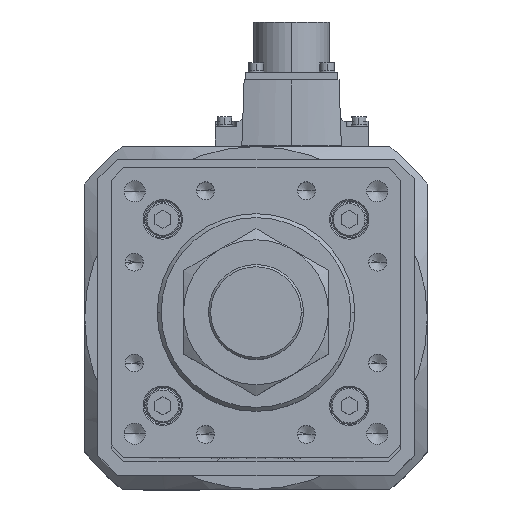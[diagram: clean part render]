
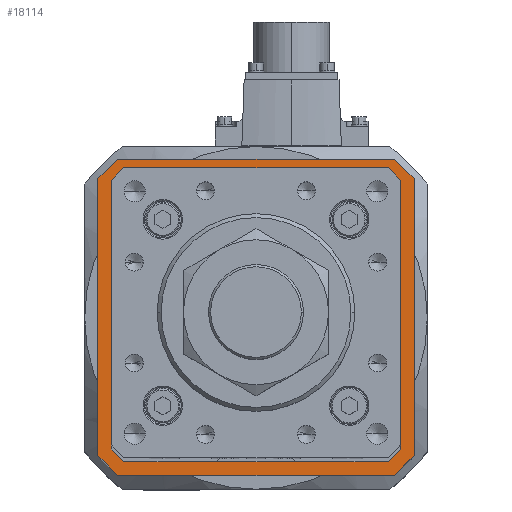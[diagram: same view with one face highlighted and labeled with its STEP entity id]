
A CAD part, top view. The second image highlights one B-rep face of the part: STEP entity #18114.
In plain terms, the highlighted planar face has unit normal (0, 0, 1).
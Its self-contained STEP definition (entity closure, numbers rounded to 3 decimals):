
#411 = VERTEX_POINT ( 'NONE', #8215 ) ;
#1445 = CARTESIAN_POINT ( 'NONE',  ( -53.646, -49.446, -119. ) ) ;
#1576 = DIRECTION ( 'NONE',  ( -0.707, 0.707, 0. ) ) ;
#2194 = CARTESIAN_POINT ( 'NONE',  ( -53.5, -49.593, -119. ) ) ;
#2470 = DIRECTION ( 'NONE',  ( 0., -1., 0. ) ) ;
#2675 = VECTOR ( 'NONE', #21064, 1000. ) ;
#3333 = ORIENTED_EDGE ( 'NONE', *, *, #23525, .F. ) ;
#3993 = ORIENTED_EDGE ( 'NONE', *, *, #28318, .T. ) ;
#4207 = ORIENTED_EDGE ( 'NONE', *, *, #32056, .T. ) ;
#4669 = VERTEX_POINT ( 'NONE', #32687 ) ;
#4819 = DIRECTION ( 'NONE',  ( 0., -1., 0. ) ) ;
#5154 = EDGE_CURVE ( 'NONE', #27202, #29627, #37141, .T. ) ;
#5333 = ORIENTED_EDGE ( 'NONE', *, *, #22204, .F. ) ;
#5356 = CARTESIAN_POINT ( 'NONE',  ( 49.593, -53.5, -119. ) ) ;
#5860 = CARTESIAN_POINT ( 'NONE',  ( -52.5, -60., -119. ) ) ;
#5901 = EDGE_CURVE ( 'NONE', #18471, #4669, #37491, .T. ) ;
#6014 = EDGE_CURVE ( 'NONE', #29627, #18471, #21142, .T. ) ;
#6247 = EDGE_CURVE ( 'NONE', #34869, #22856, #31531, .T. ) ;
#6373 = CARTESIAN_POINT ( 'NONE',  ( -52.5, 60., -119. ) ) ;
#6448 = CARTESIAN_POINT ( 'NONE',  ( 49.446, -53.646, -119. ) ) ;
#6647 = EDGE_LOOP ( 'NONE', ( #5333, #18380, #12939, #7297, #6736, #6955, #3333, #19049 ) ) ;
#6662 = VECTOR ( 'NONE', #28978, 1000. ) ;
#6736 = ORIENTED_EDGE ( 'NONE', *, *, #19068, .F. ) ;
#6928 = DIRECTION ( 'NONE',  ( 0.707, -0.707, 0. ) ) ;
#6955 = ORIENTED_EDGE ( 'NONE', *, *, #32998, .F. ) ;
#7160 = ORIENTED_EDGE ( 'NONE', *, *, #6014, .T. ) ;
#7297 = ORIENTED_EDGE ( 'NONE', *, *, #31286, .F. ) ;
#7788 = LINE ( 'NONE', #26077, #32752 ) ;
#7793 = VERTEX_POINT ( 'NONE', #37393 ) ;
#8215 = CARTESIAN_POINT ( 'NONE',  ( -60., 52.5, -119. ) ) ;
#8290 = EDGE_CURVE ( 'NONE', #411, #20085, #21397, .T. ) ;
#8300 = ORIENTED_EDGE ( 'NONE', *, *, #5901, .T. ) ;
#9520 = DIRECTION ( 'NONE',  ( -1., 0., 0. ) ) ;
#9641 = CARTESIAN_POINT ( 'NONE',  ( 60., 52.5, -119. ) ) ;
#10135 = VERTEX_POINT ( 'NONE', #27299 ) ;
#10841 = CARTESIAN_POINT ( 'NONE',  ( -60., 52.5, -119. ) ) ;
#11097 = VECTOR ( 'NONE', #29927, 1000. ) ;
#12756 = LINE ( 'NONE', #28188, #15908 ) ;
#12939 = ORIENTED_EDGE ( 'NONE', *, *, #21978, .F. ) ;
#13019 = LINE ( 'NONE', #10841, #21588 ) ;
#13274 = DIRECTION ( 'NONE',  ( 1., 0., 0. ) ) ;
#13339 = LINE ( 'NONE', #31394, #34621 ) ;
#13508 = LINE ( 'NONE', #14174, #6662 ) ;
#13796 = VECTOR ( 'NONE', #9520, 1000. ) ;
#13869 = VECTOR ( 'NONE', #1576, 1000. ) ;
#14174 = CARTESIAN_POINT ( 'NONE',  ( 60., -52.5, -119. ) ) ;
#14533 = ORIENTED_EDGE ( 'NONE', *, *, #17028, .T. ) ;
#15350 = CARTESIAN_POINT ( 'NONE',  ( 60., 52.5, -119. ) ) ;
#15908 = VECTOR ( 'NONE', #28685, 1000. ) ;
#15919 = LINE ( 'NONE', #34376, #18160 ) ;
#16363 = VERTEX_POINT ( 'NONE', #5860 ) ;
#16610 = EDGE_CURVE ( 'NONE', #7793, #27202, #18866, .T. ) ;
#16770 = VERTEX_POINT ( 'NONE', #34012 ) ;
#17028 = EDGE_CURVE ( 'NONE', #10135, #26780, #24293, .T. ) ;
#17943 = ORIENTED_EDGE ( 'NONE', *, *, #25525, .T. ) ;
#18057 = CARTESIAN_POINT ( 'NONE',  ( -53.5, 49.593, -119. ) ) ;
#18067 = ORIENTED_EDGE ( 'NONE', *, *, #16610, .T. ) ;
#18114 = ADVANCED_FACE ( 'NONE', ( #35610, #18797 ), #36230, .T. ) ;
#18160 = VECTOR ( 'NONE', #4819, 1000. ) ;
#18380 = ORIENTED_EDGE ( 'NONE', *, *, #8290, .F. ) ;
#18471 = VERTEX_POINT ( 'NONE', #25801 ) ;
#18797 = FACE_OUTER_BOUND ( 'NONE', #6647, .T. ) ;
#18866 = LINE ( 'NONE', #1445, #13869 ) ;
#18909 = LINE ( 'NONE', #20980, #35682 ) ;
#19049 = ORIENTED_EDGE ( 'NONE', *, *, #6247, .F. ) ;
#19068 = EDGE_CURVE ( 'NONE', #30083, #16363, #7788, .T. ) ;
#19667 = CARTESIAN_POINT ( 'NONE',  ( -49.446, 53.646, -119. ) ) ;
#20085 = VERTEX_POINT ( 'NONE', #25148 ) ;
#20309 = EDGE_LOOP ( 'NONE', ( #8300, #4207, #17943, #14533, #3993, #18067, #29430, #7160 ) ) ;
#20980 = CARTESIAN_POINT ( 'NONE',  ( 52.5, 60., -119. ) ) ;
#21064 = DIRECTION ( 'NONE',  ( 0.707, -0.707, 0. ) ) ;
#21073 = CARTESIAN_POINT ( 'NONE',  ( -49.8, -53.5, -119. ) ) ;
#21142 = LINE ( 'NONE', #19667, #23870 ) ;
#21397 = LINE ( 'NONE', #6373, #27261 ) ;
#21461 = CARTESIAN_POINT ( 'NONE',  ( 60., -52.5, -119. ) ) ;
#21475 = VERTEX_POINT ( 'NONE', #21461 ) ;
#21588 = VECTOR ( 'NONE', #25442, 1000. ) ;
#21643 = DIRECTION ( 'NONE',  ( 0.707, 0.707, 0. ) ) ;
#21897 = DIRECTION ( 'NONE',  ( 0., 0., 1. ) ) ;
#21978 = EDGE_CURVE ( 'NONE', #16770, #411, #13019, .T. ) ;
#22054 = VECTOR ( 'NONE', #28340, 1000. ) ;
#22204 = EDGE_CURVE ( 'NONE', #20085, #34869, #18909, .T. ) ;
#22856 = VERTEX_POINT ( 'NONE', #15350 ) ;
#23525 = EDGE_CURVE ( 'NONE', #22856, #21475, #13339, .T. ) ;
#23870 = VECTOR ( 'NONE', #37450, 1000. ) ;
#24293 = LINE ( 'NONE', #6448, #11097 ) ;
#25148 = CARTESIAN_POINT ( 'NONE',  ( -52.5, 60., -119. ) ) ;
#25442 = DIRECTION ( 'NONE',  ( 0., 1., 0. ) ) ;
#25525 = EDGE_CURVE ( 'NONE', #30835, #10135, #15919, .T. ) ;
#25716 = CARTESIAN_POINT ( 'NONE',  ( 49.8, 53.5, -119. ) ) ;
#25801 = CARTESIAN_POINT ( 'NONE',  ( -49.593, 53.5, -119. ) ) ;
#26077 = CARTESIAN_POINT ( 'NONE',  ( 52.5, -60., -119. ) ) ;
#26462 = CARTESIAN_POINT ( 'NONE',  ( 53.5, 49.593, -119. ) ) ;
#26748 = CARTESIAN_POINT ( 'NONE',  ( 53.646, 49.446, -119. ) ) ;
#26780 = VERTEX_POINT ( 'NONE', #5356 ) ;
#27202 = VERTEX_POINT ( 'NONE', #2194 ) ;
#27261 = VECTOR ( 'NONE', #21643, 1000. ) ;
#27299 = CARTESIAN_POINT ( 'NONE',  ( 53.5, -49.593, -119. ) ) ;
#28188 = CARTESIAN_POINT ( 'NONE',  ( -52.5, -60., -119. ) ) ;
#28318 = EDGE_CURVE ( 'NONE', #26780, #7793, #29184, .T. ) ;
#28340 = DIRECTION ( 'NONE',  ( 1., 0., 0. ) ) ;
#28685 = DIRECTION ( 'NONE',  ( -0.707, 0.707, 0. ) ) ;
#28978 = DIRECTION ( 'NONE',  ( -0.707, -0.707, 0. ) ) ;
#29184 = LINE ( 'NONE', #21073, #13796 ) ;
#29247 = VECTOR ( 'NONE', #6928, 1000. ) ;
#29430 = ORIENTED_EDGE ( 'NONE', *, *, #5154, .T. ) ;
#29627 = VERTEX_POINT ( 'NONE', #18057 ) ;
#29927 = DIRECTION ( 'NONE',  ( -0.707, -0.707, 0. ) ) ;
#29976 = AXIS2_PLACEMENT_3D ( 'NONE', #33259, #21897, #13274 ) ;
#30083 = VERTEX_POINT ( 'NONE', #36811 ) ;
#30499 = CARTESIAN_POINT ( 'NONE',  ( -53.5, 49.8, -119. ) ) ;
#30835 = VERTEX_POINT ( 'NONE', #26462 ) ;
#31215 = VECTOR ( 'NONE', #36866, 1000. ) ;
#31286 = EDGE_CURVE ( 'NONE', #16363, #16770, #12756, .T. ) ;
#31394 = CARTESIAN_POINT ( 'NONE',  ( 60., 52.5, -119. ) ) ;
#31531 = LINE ( 'NONE', #9641, #29247 ) ;
#31785 = DIRECTION ( 'NONE',  ( -1., 0., 0. ) ) ;
#32056 = EDGE_CURVE ( 'NONE', #4669, #30835, #35817, .T. ) ;
#32618 = DIRECTION ( 'NONE',  ( 1., 0., 0. ) ) ;
#32687 = CARTESIAN_POINT ( 'NONE',  ( 49.593, 53.5, -119. ) ) ;
#32752 = VECTOR ( 'NONE', #31785, 1000. ) ;
#32998 = EDGE_CURVE ( 'NONE', #21475, #30083, #13508, .T. ) ;
#33259 = CARTESIAN_POINT ( 'NONE',  ( 0., 0., -119. ) ) ;
#34012 = CARTESIAN_POINT ( 'NONE',  ( -60., -52.5, -119. ) ) ;
#34376 = CARTESIAN_POINT ( 'NONE',  ( 53.5, -49.8, -119. ) ) ;
#34621 = VECTOR ( 'NONE', #2470, 1000. ) ;
#34821 = CARTESIAN_POINT ( 'NONE',  ( 52.5, 60., -119. ) ) ;
#34869 = VERTEX_POINT ( 'NONE', #34821 ) ;
#35610 = FACE_BOUND ( 'NONE', #20309, .T. ) ;
#35682 = VECTOR ( 'NONE', #32618, 1000. ) ;
#35817 = LINE ( 'NONE', #26748, #2675 ) ;
#36230 = PLANE ( 'NONE',  #29976 ) ;
#36811 = CARTESIAN_POINT ( 'NONE',  ( 52.5, -60., -119. ) ) ;
#36866 = DIRECTION ( 'NONE',  ( 0., 1., 0. ) ) ;
#37141 = LINE ( 'NONE', #30499, #31215 ) ;
#37393 = CARTESIAN_POINT ( 'NONE',  ( -49.593, -53.5, -119. ) ) ;
#37450 = DIRECTION ( 'NONE',  ( 0.707, 0.707, 0. ) ) ;
#37491 = LINE ( 'NONE', #25716, #22054 ) ;
